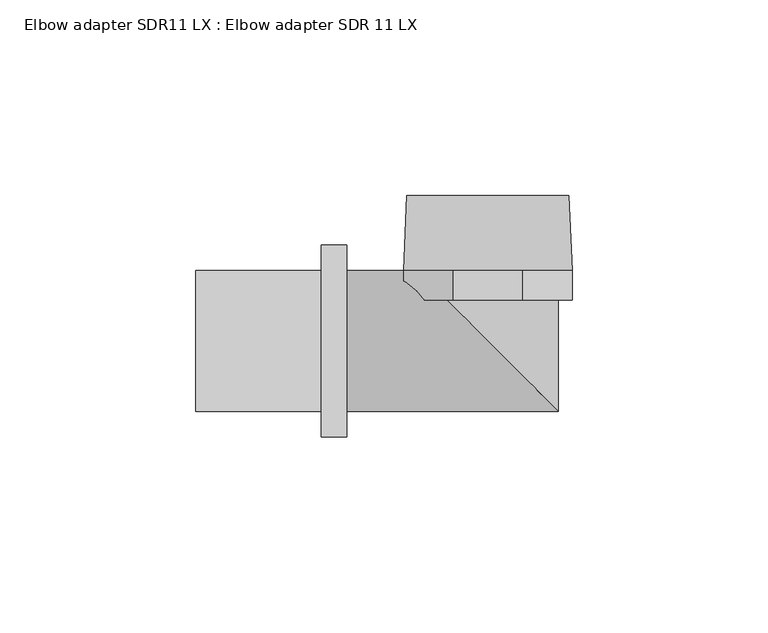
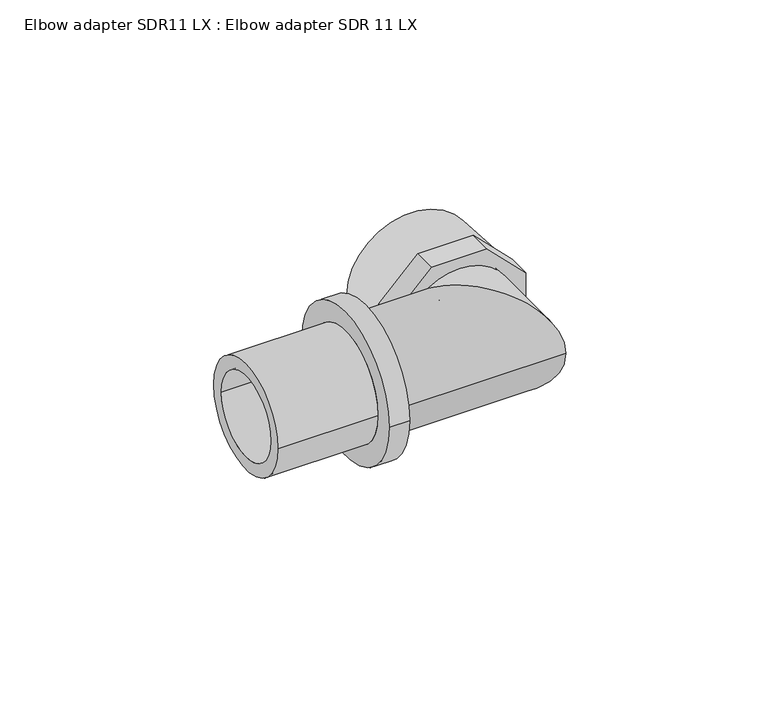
"""IFC4 building model written with IfcOpenShell, lengths in millimetres: pipe fitting geometry, Elbow adapter SDR11 LX : Elbow adapter SDR 11 LX."""

from ifc_helpers import new_model, si_unit, point, frame, origin, origin_2d, place, context, project, spatial, polyline, circle_curve, ellipse_curve, trimmed, segment, composite_curve, outline, extrude, source, transform, mapped, element, save
from ifc_brep_helpers import plane_surface, cylinder_surface, revolved_surface, advanced_brep


def elbow_adapter_sdr11_lx_elbow_adapter_sdr_11_lx_9b6015cc(model_context):
    return source(origin(), model_context, "Body", "SolidModel", [
        extrude(outline(polyline([(-8.9055916, -21.5), (-21.5, -8.9055916), (-21.5, 8.9055916), (-8.9055916, 21.5), (8.9055916, 21.5), (21.5, 8.9055916), (21.5, -8.9055916), (8.9055916, -21.5), (-8.9055916, -21.5)]), holes=[composite_curve([segment(trimmed(circle_curve(origin_2d(), 16.25), [point((-16.25, 0.0))], [point((16.25, 0.0))], True, "CARTESIAN"), True, "CONTINUOUS"), segment(trimmed(circle_curve(origin_2d(), 16.25), [point((16.25, 0.0))], [point((-16.25, 0.0))], True, "CARTESIAN"), True, "CONTINUOUS")], self_intersect=False)]), frame((0.0, 10.5, 0.0), z_axis=(0.0, 1.0, 0.0), x_axis=(0.0, 0.0, 1.0)), (0.0, 0.0, 1.0), 7.5),
        advanced_brep(
        [(20.7, 37.1, 0.0), (-20.7, 37.1, 0.0), (0.0, 37.1, 16.25), (0.0, 37.1, -16.25), (21.5, 18.0, 0.0), (-21.5, 18.0, 0.0), (0.0, 18.0, -16.25), (0.0, 18.0, 16.25)],
        [
            (0, 1, circle_curve(frame((0.0, 37.1, 0.0), z_axis=(0.0, 1.0, 0.0), x_axis=(1.0, 0.0, 0.0)), 20.7)),
            (1, 0, circle_curve(frame((0.0, 37.1, 0.0), z_axis=(0.0, 1.0, 0.0), x_axis=(-1.0, 0.0, 0.0)), 20.7)),
            (2, 3, circle_curve(frame((0.0, 37.1, 0.0), z_axis=(0.0, -1.0, 0.0), x_axis=(0.0, 0.0, 1.0)), 16.25)),
            (3, 2, circle_curve(frame((0.0, 37.1, 0.0), z_axis=(0.0, -1.0, 0.0), x_axis=(0.0, 0.0, 1.0)), 16.25)),
            (4, 5, circle_curve(frame((0.0, 18.0, 0.0), z_axis=(0.0, -1.0, 0.0), x_axis=(-1.0, 0.0, 0.0)), 21.5)),
            (5, 4, circle_curve(frame((0.0, 18.0, 0.0), z_axis=(0.0, -1.0, 0.0), x_axis=(1.0, 0.0, 0.0)), 21.5)),
            (6, 7, circle_curve(frame((0.0, 18.0, 0.0), z_axis=(0.0, 1.0, 0.0), x_axis=(0.0, 0.0, 1.0)), 16.25)),
            (7, 6, circle_curve(frame((0.0, 18.0, 0.0), z_axis=(0.0, 1.0, 0.0), x_axis=(0.0, 0.0, 1.0)), 16.25)),
            (0, 4),
            (5, 1),
            (6, 3),
            (2, 7),
        ],
        [
            plane_surface(frame((0.0, 37.1, 0.0), z_axis=(0.0, 1.0, 0.0), x_axis=(0.0, 0.0, -1.0))),
            plane_surface(frame((0.0, 18.0, 0.0), z_axis=(0.0, -1.0, 0.0), x_axis=(0.0, 0.0, -1.0))),
            revolved_surface(polyline([(20.7, 37.10000000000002, 0.0), (21.5, 18.0, 0.0)]), (0.0, 531.3125, 0.0), (0.0, -1.0, 0.0)),
            revolved_surface(polyline([(-20.7, 37.10000000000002, 0.0), (-21.5, 18.0, 0.0)]), (0.0, 531.3125, 0.0), (0.0, -1.0, 0.0)),
            revolved_surface(polyline([(0.0, 37.1, 16.25), (0.0, 18.0, 16.25)]), (0.0, 10.5, 0.0), (0.0, 1.0, 0.0)),
        ],
        [
            (0, [[1, 2], [3, 4]]),
            (1, [[5, 6], [7, 8]]),
            (2, [[-1, 9, -6, 10]]),
            (3, [[-2, -10, -5, -9]]),
            (4, [[11, -3, 12, -7]]),
            (4, [[-11, -8, -12, -4]]),
        ],
    ),
        advanced_brep(
        [(-36.0, -18.0, 0.0), (-36.0, 18.0, 0.0), (-36.0, -13.75, 0.0), (-36.0, 13.75, 0.0), (18.0, -18.0, 0.0), (-18.0, 18.0, 0.0), (13.75, -13.75, 0.0), (-13.75, 13.75, 0.0), (18.0, 18.0, 0.0), (13.75, 18.0, 0.0), (-13.75, 18.0, 0.0)],
        [
            (0, 1, circle_curve(frame((-36.0, 0.0, 0.0), z_axis=(-1.0, 0.0, 0.0), x_axis=(0.0, 1.0, 0.0)), 18.0)),
            (1, 0, circle_curve(frame((-36.0, 0.0, 0.0), z_axis=(-1.0, 0.0, 0.0), x_axis=(0.0, 1.0, 0.0)), 18.0)),
            (2, 3, circle_curve(frame((-36.0, 0.0, 0.0), z_axis=(1.0, 0.0, 0.0), x_axis=(0.0, 1.0, 0.0)), 13.75)),
            (3, 2, circle_curve(frame((-36.0, 0.0, 0.0), z_axis=(1.0, 0.0, 0.0), x_axis=(0.0, 1.0, 0.0)), 13.75)),
            (0, 4),
            (4, 5, ellipse_curve(frame((0.0, 0.0, 0.0), z_axis=(-0.7071067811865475, -0.7071067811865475, 0.0), x_axis=(-0.7071067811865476, 0.7071067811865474, 0.0)), 25.4558441, 18.0)),
            (5, 1),
            (5, 4, ellipse_curve(frame((0.0, 0.0, 0.0), z_axis=(-0.7071067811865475, -0.7071067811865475, 0.0), x_axis=(-0.7071067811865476, 0.7071067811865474, 0.0)), 25.4558441, 18.0)),
            (2, 6),
            (6, 7, ellipse_curve(frame((0.0, 0.0, 0.0), z_axis=(0.7071067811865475, 0.7071067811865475, 0.0), x_axis=(0.7071067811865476, -0.7071067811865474, 0.0)), 19.4454365, 13.75)),
            (7, 3),
            (7, 6, ellipse_curve(frame((0.0, 0.0, 0.0), z_axis=(0.7071067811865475, 0.7071067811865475, 0.0), x_axis=(0.7071067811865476, -0.7071067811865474, 0.0)), 19.4454365, 13.75)),
            (8, 5, circle_curve(frame((0.0, 18.0, 0.0), z_axis=(0.0, 1.0, 0.0), x_axis=(-1.0, 0.0, 0.0)), 18.0)),
            (5, 8, circle_curve(frame((0.0, 18.0, 0.0), z_axis=(0.0, 1.0, 0.0), x_axis=(-1.0, 0.0, 0.0)), 18.0)),
            (9, 10, circle_curve(frame((0.0, 18.0, 0.0), z_axis=(0.0, -1.0, 0.0), x_axis=(-1.0, 0.0, 0.0)), 13.75)),
            (10, 9, circle_curve(frame((0.0, 18.0, 0.0), z_axis=(0.0, -1.0, 0.0), x_axis=(-1.0, 0.0, 0.0)), 13.75)),
            (4, 8),
            (6, 9),
            (10, 7),
        ],
        [
            plane_surface(frame((-36.0, 0.0, 0.0), z_axis=(-1.0, 0.0, 0.0), x_axis=(0.0, 0.0, 1.0))),
            cylinder_surface(frame((-36.0, 0.0, 0.0), z_axis=(-1.0, 0.0, 0.0), x_axis=(0.0, 1.0, 0.0)), 18.0),
            revolved_surface(polyline([(13.750000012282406, 13.75, 0.0), (-36.0, 13.75, 0.0)]), (-36.0, 0.0, 0.0), (1.0, 0.0, 0.0)),
            plane_surface(frame((0.0, 18.0, 0.0), z_axis=(0.0, 1.0, 0.0), x_axis=(0.0, 0.0, 1.0))),
            cylinder_surface(frame((0.0, 0.0, 0.0), z_axis=(0.0, -1.0, 0.0), x_axis=(-1.0, 0.0, 0.0)), 18.0),
            revolved_surface(polyline([(-13.75, 18.0, 0.0), (-13.75, -13.7500000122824, 0.0)]), (0.0, 0.0, 0.0), (0.0, 1.0, 0.0)),
        ],
        [
            (0, [[1, 2], [3, 4]]),
            (1, [[-1, 5, 6, 7]]),
            (1, [[-2, -7, 8, -5]]),
            (2, [[-3, 9, 10, 11]]),
            (2, [[-4, -11, 12, -9]]),
            (3, [[13, 14], [15, 16]]),
            (4, [[-6, 17, -14]]),
            (4, [[-8, -13, -17]]),
            (5, [[-10, 18, -16, 19]]),
            (5, [[-12, -19, -15, -18]]),
        ],
    ),
        advanced_brep(
        [(-36.0, 24.5, 0.0), (-36.0, -24.5, 0.0), (-42.5, -24.5, 0.0), (-42.5, 24.5, 0.0), (-42.5, 18.0, 0.0), (-42.5, -18.0, 0.0), (-74.5, -18.0, 0.0), (-74.5, 18.0, 0.0), (-74.5, 13.75, 0.0), (-74.5, -13.75, 0.0), (-36.0, -13.75, 0.0), (-36.0, 13.75, 0.0)],
        [
            (0, 1, circle_curve(frame((-36.0, 0.0, 0.0), z_axis=(-1.0, 0.0, 0.0), x_axis=(0.0, -1.0, 0.0)), 24.5)),
            (1, 2),
            (2, 3, circle_curve(frame((-42.5, 0.0, 0.0), z_axis=(1.0, 0.0, 0.0), x_axis=(0.0, -1.0, 0.0)), 24.5)),
            (3, 0),
            (4, 5, circle_curve(frame((-42.5, 0.0, 0.0), z_axis=(-1.0, 0.0, 0.0), x_axis=(0.0, -1.0, 0.0)), 18.0)),
            (5, 6),
            (6, 7, circle_curve(frame((-74.5, 0.0, 0.0), z_axis=(1.0, 0.0, 0.0), x_axis=(0.0, -1.0, 0.0)), 18.0)),
            (7, 4),
            (8, 9, circle_curve(frame((-74.5, 0.0, 0.0), z_axis=(-1.0, 0.0, 0.0), x_axis=(0.0, -1.0, 0.0)), 13.75)),
            (9, 10),
            (10, 11, circle_curve(frame((-36.0, 0.0, 0.0), z_axis=(1.0, 0.0, 0.0), x_axis=(0.0, -1.0, 0.0)), 13.75)),
            (11, 8),
            (0, 1, circle_curve(frame((-36.0, 0.0, 0.0), z_axis=(1.0, 0.0, 0.0), x_axis=(0.0, 1.0, 0.0)), 24.5)),
            (10, 11, circle_curve(frame((-36.0, 0.0, 0.0), z_axis=(-1.0, 0.0, 0.0), x_axis=(0.0, 1.0, 0.0)), 13.75)),
            (3, 2, circle_curve(frame((-42.5, 0.0, 0.0), z_axis=(1.0, 0.0, 0.0), x_axis=(0.0, 1.0, 0.0)), 24.5)),
            (4, 5, circle_curve(frame((-42.5, 0.0, 0.0), z_axis=(1.0, 0.0, 0.0), x_axis=(0.0, 1.0, 0.0)), 18.0)),
            (7, 6, circle_curve(frame((-74.5, 0.0, 0.0), z_axis=(1.0, 0.0, 0.0), x_axis=(0.0, 1.0, 0.0)), 18.0)),
            (8, 9, circle_curve(frame((-74.5, 0.0, 0.0), z_axis=(1.0, 0.0, 0.0), x_axis=(0.0, 1.0, 0.0)), 13.75)),
        ],
        [
            cylinder_surface(frame((0.0, 0.0, 0.0), z_axis=(1.0, 0.0, 0.0), x_axis=(0.0, -1.0, 0.0)), 24.5),
            cylinder_surface(frame((0.0, 0.0, 0.0), z_axis=(1.0, 0.0, 0.0), x_axis=(0.0, -1.0, 0.0)), 18.0),
            revolved_surface(polyline([(-36.0, -13.75, 0.0), (-74.5, -13.75, 0.0)]), (0.0, 0.0, 0.0), (1.0, 0.0, 0.0)),
            plane_surface(frame((-36.0, 0.0, 0.0), z_axis=(1.0, 0.0, 0.0), x_axis=(0.0, 1.0, 0.0))),
            cylinder_surface(frame((0.0, 0.0, 0.0), z_axis=(1.0, 0.0, 0.0), x_axis=(0.0, 1.0, 0.0)), 24.5),
            plane_surface(frame((-42.5, 0.0, 0.0), z_axis=(-1.0, 0.0, 0.0), x_axis=(0.0, 1.0, 0.0))),
            cylinder_surface(frame((0.0, 0.0, 0.0), z_axis=(1.0, 0.0, 0.0), x_axis=(0.0, 1.0, 0.0)), 18.0),
            plane_surface(frame((-74.5, 0.0, 0.0), z_axis=(-1.0, 0.0, 0.0), x_axis=(0.0, 1.0, 0.0))),
            revolved_surface(polyline([(-36.0, 13.75, 0.0), (-74.5, 13.75, 0.0)]), (0.0, 0.0, 0.0), (1.0, 0.0, 0.0)),
        ],
        [
            (0, [[1, 2, 3, 4]]),
            (1, [[5, 6, 7, 8]]),
            (2, [[9, 10, 11, 12]]),
            (3, [[13, -1], [14, -11]]),
            (4, [[-13, -4, 15, -2]]),
            (5, [[-15, -3], [16, -5]]),
            (6, [[-16, -8, 17, -6]]),
            (7, [[-17, -7], [18, -9]]),
            (8, [[-18, -12, -14, -10]]),
        ],
    ),
    ])


if __name__ == "__main__":
    model = new_model("IFC4")
    model_context = context("Model", 3, world=origin())
    ifc_project = project(units=[si_unit("LENGTHUNIT", "METRE", prefix="MILLI")], contexts=[model_context])
    site = spatial("IfcSite", under=ifc_project)
    building = spatial("IfcBuilding", under=site)
    placement = place(None, origin())
    elbow_adapter_sdr11_lx_elbow_adapter_sdr_11_lx_shape = elbow_adapter_sdr11_lx_elbow_adapter_sdr_11_lx_9b6015cc(model_context)
    element("IfcPipeFitting", 1, ObjectType="Elbow adapter SDR11 LX : Elbow adapter SDR 11 LX", at=placement, inside=building, context=model_context, shape_type="MappedRepresentation", body=[
        mapped(elbow_adapter_sdr11_lx_elbow_adapter_sdr_11_lx_shape, transform((0.0, 0.0, 0.0), x_axis=(1.0, 0.0, 0.0), y_axis=(0.0, 1.0, 0.0), z_axis=(0.0, 0.0, 1.0))),
    ])
    save(model, "model.ifc")
